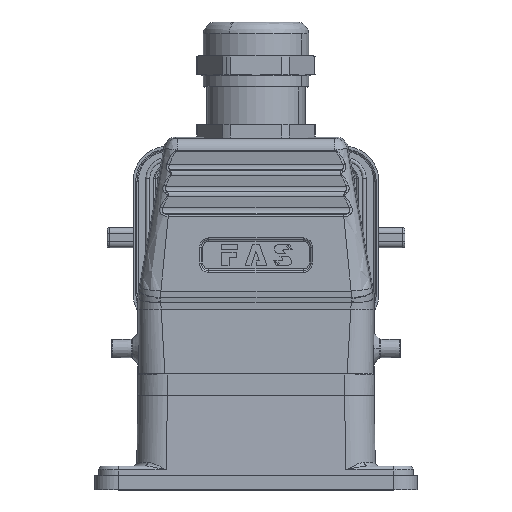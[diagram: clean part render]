
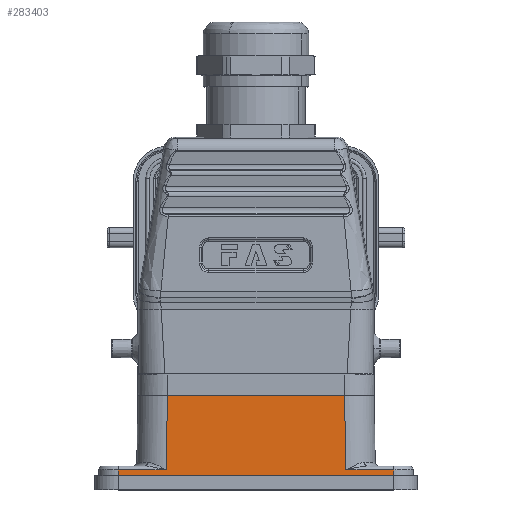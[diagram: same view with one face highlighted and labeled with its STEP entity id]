
A CAD part, top view. The second image highlights one B-rep face of the part: STEP entity #283403.
In plain terms, the highlighted planar face has unit normal (0, 0.018, 1) as drawn and (0, 0.017, -1) by its records, which use the part's own axes.
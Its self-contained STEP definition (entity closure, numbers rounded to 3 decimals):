
#632 = CARTESIAN_POINT ( 'NONE',  ( 42.121, 0., -21.884 ) ) ;
#2890 = LINE ( 'NONE', #109069, #231301 ) ;
#10164 = CARTESIAN_POINT ( 'NONE',  ( 22.832, 3.017, -21.831 ) ) ;
#20655 = EDGE_CURVE ( 'NONE', #137008, #194293, #30863, .T. ) ;
#27953 = LINE ( 'NONE', #166043, #81728 ) ;
#29849 = CARTESIAN_POINT ( 'NONE',  ( -22.832, 3.017, -21.831 ) ) ;
#30863 = LINE ( 'NONE', #185087, #79461 ) ;
#33803 = ORIENTED_EDGE ( 'NONE', *, *, #271542, .T. ) ;
#37683 = DIRECTION ( 'NONE',  ( -1., 0., 0. ) ) ;
#40434 = CARTESIAN_POINT ( 'NONE',  ( -35.001, 0., -21.884 ) ) ;
#46524 = DIRECTION ( 'NONE',  ( 1., 0., 0. ) ) ;
#50867 = EDGE_CURVE ( 'NONE', #147268, #154819, #265698, .T. ) ;
#54562 = ORIENTED_EDGE ( 'NONE', *, *, #282594, .T. ) ;
#61414 = ORIENTED_EDGE ( 'NONE', *, *, #20655, .T. ) ;
#68149 = EDGE_CURVE ( 'NONE', #127647, #214863, #2890, .T. ) ;
#69129 = DIRECTION ( 'NONE',  ( 0.017, 1., 0.017 ) ) ;
#72904 = ORIENTED_EDGE ( 'NONE', *, *, #215003, .T. ) ;
#74254 = ORIENTED_EDGE ( 'NONE', *, *, #171604, .T. ) ;
#79461 = VECTOR ( 'NONE', #167570, 1000. ) ;
#81728 = VECTOR ( 'NONE', #205427, 1000. ) ;
#91491 = ORIENTED_EDGE ( 'NONE', *, *, #68149, .T. ) ;
#109069 = CARTESIAN_POINT ( 'NONE',  ( 42.121, 3.017, -21.831 ) ) ;
#110540 = VECTOR ( 'NONE', #266637, 1000. ) ;
#126295 = ORIENTED_EDGE ( 'NONE', *, *, #50867, .T. ) ;
#127647 = VERTEX_POINT ( 'NONE', #173511 ) ;
#136007 = LINE ( 'NONE', #269712, #264512 ) ;
#137008 = VERTEX_POINT ( 'NONE', #172163 ) ;
#144583 = VECTOR ( 'NONE', #197458, 1000. ) ;
#147268 = VERTEX_POINT ( 'NONE', #206124 ) ;
#153837 = CARTESIAN_POINT ( 'NONE',  ( 34.948, 3.017, -21.831 ) ) ;
#154819 = VERTEX_POINT ( 'NONE', #219625 ) ;
#157921 = ORIENTED_EDGE ( 'NONE', *, *, #240358, .T. ) ;
#160565 = VECTOR ( 'NONE', #250531, 1000. ) ;
#166043 = CARTESIAN_POINT ( 'NONE',  ( 42.121, 3.017, -21.831 ) ) ;
#167570 = DIRECTION ( 'NONE',  ( 1., 0., 0. ) ) ;
#168600 = DIRECTION ( 'NONE',  ( 0., 0.017, -1. ) ) ;
#171465 = CARTESIAN_POINT ( 'NONE',  ( 22.501, 22., -21.5 ) ) ;
#171604 = EDGE_CURVE ( 'NONE', #194293, #239601, #261526, .T. ) ;
#172163 = CARTESIAN_POINT ( 'NONE',  ( -22.501, 22., -21.5 ) ) ;
#173511 = CARTESIAN_POINT ( 'NONE',  ( -34.948, 3.017, -21.831 ) ) ;
#175975 = VERTEX_POINT ( 'NONE', #40434 ) ;
#178011 = CARTESIAN_POINT ( 'NONE',  ( -22.832, 3.017, -21.831 ) ) ;
#185087 = CARTESIAN_POINT ( 'NONE',  ( 42.121, 22., -21.5 ) ) ;
#185840 = AXIS2_PLACEMENT_3D ( 'NONE', #238332, #168600, #37683 ) ;
#194293 = VERTEX_POINT ( 'NONE', #260891 ) ;
#197458 = DIRECTION ( 'NONE',  ( 0.017, -1., -0.017 ) ) ;
#205427 = DIRECTION ( 'NONE',  ( 1., 0., 0. ) ) ;
#206124 = CARTESIAN_POINT ( 'NONE',  ( 34.948, 3.017, -21.831 ) ) ;
#206477 = VECTOR ( 'NONE', #238327, 1000. ) ;
#213665 = FACE_OUTER_BOUND ( 'NONE', #272893, .T. ) ;
#214863 = VERTEX_POINT ( 'NONE', #29849 ) ;
#215003 = EDGE_CURVE ( 'NONE', #154819, #175975, #242034, .T. ) ;
#219625 = CARTESIAN_POINT ( 'NONE',  ( 35.001, 0., -21.884 ) ) ;
#231301 = VECTOR ( 'NONE', #46524, 1000. ) ;
#236881 = PLANE ( 'NONE',  #185840 ) ;
#238327 = DIRECTION ( 'NONE',  ( 0.017, -1., -0.017 ) ) ;
#238332 = CARTESIAN_POINT ( 'NONE',  ( 42.121, 22., -21.5 ) ) ;
#239601 = VERTEX_POINT ( 'NONE', #10164 ) ;
#240358 = EDGE_CURVE ( 'NONE', #214863, #137008, #266631, .T. ) ;
#242034 = LINE ( 'NONE', #632, #110540 ) ;
#250531 = DIRECTION ( 'NONE',  ( 0.017, 1., 0.017 ) ) ;
#260891 = CARTESIAN_POINT ( 'NONE',  ( 22.501, 22., -21.5 ) ) ;
#261526 = LINE ( 'NONE', #171465, #206477 ) ;
#264512 = VECTOR ( 'NONE', #69129, 1000. ) ;
#265698 = LINE ( 'NONE', #153837, #144583 ) ;
#266631 = LINE ( 'NONE', #178011, #160565 ) ;
#266637 = DIRECTION ( 'NONE',  ( -1., 0., 0. ) ) ;
#269712 = CARTESIAN_POINT ( 'NONE',  ( -35.001, 0., -21.884 ) ) ;
#271542 = EDGE_CURVE ( 'NONE', #239601, #147268, #27953, .T. ) ;
#272893 = EDGE_LOOP ( 'NONE', ( #74254, #33803, #126295, #72904, #54562, #91491, #157921, #61414 ) ) ;
#282594 = EDGE_CURVE ( 'NONE', #175975, #127647, #136007, .T. ) ;
#283403 = ADVANCED_FACE ( 'NONE', ( #213665 ), #236881, .T. ) ;
